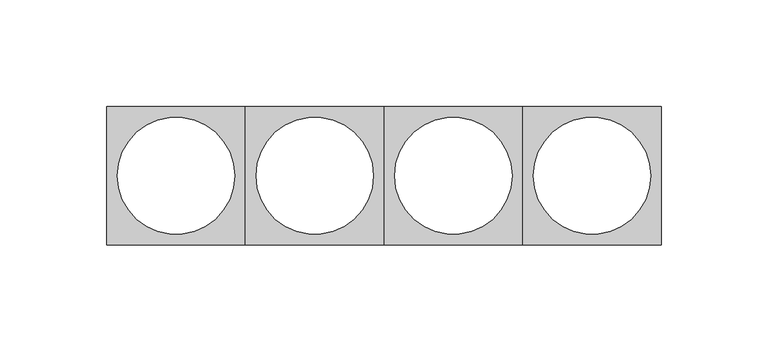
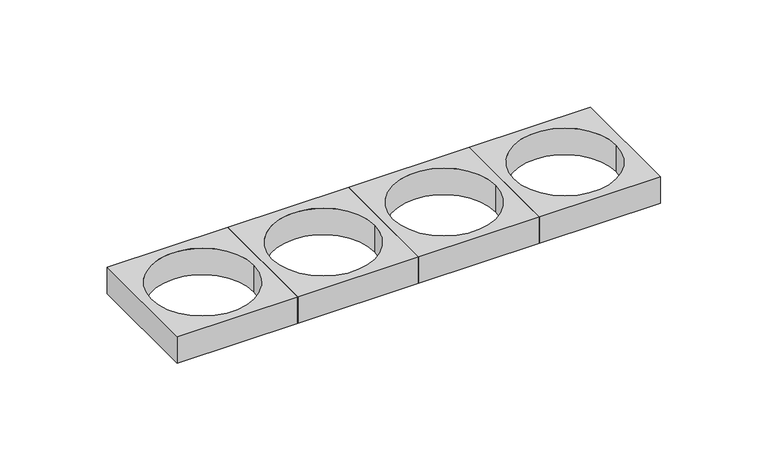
"""IFC4 building model written with IfcOpenShell, lengths in millimetres: duct fitting geometry, Mosaic Суппорт на 4 модуля : 65мм."""

import ifcopenshell
import ifcopenshell.guid

model = None  # the IFC model being written
_history = None  # IfcOwnerHistory: only IFC2X3 demands one
_inside = {}  # id of a spatial element -> (the spatial element, [elements in it])
_under = {}  # id of a project, library or spatial element -> (it, [spatial elements below it])
_declared = {}  # id of a project -> (the project, [libraries it declares])
_typed = {}  # id of a type object -> (the type object, [elements of that type])
_made_of = {}  # id of a material, layer set ... -> (it, [elements and type objects made of it])


def new_model(schema):
    """Start an empty IFC model of exactly this schema.

    Asked for "IFC4X3", IfcOpenShell would pick the latest addendum, in which some entities
    have other attributes; the version numbers below select the first issue.
    IFC2X3 requires an IfcOwnerHistory on every rooted entity: one is made here for all.
    """
    global model, _history
    if schema == "IFC4X3":
        model = ifcopenshell.file(schema_version=(4, 3, 0, 0))
    else:
        model = ifcopenshell.file(schema=schema)
    _inside.clear()
    _under.clear()
    _declared.clear()
    _typed.clear()
    _made_of.clear()
    _history = None
    if model.schema == "IFC2X3":
        org = make("IfcOrganization", Name="unknown")
        user = make(
            "IfcPersonAndOrganization",
            ThePerson=make("IfcPerson", FamilyName="unknown"),
            TheOrganization=org,
        )
        app = make(
            "IfcApplication",
            ApplicationDeveloper=org,
            Version="unknown",
            ApplicationFullName="unknown",
            ApplicationIdentifier="unknown",
        )
        _history = make(
            "IfcOwnerHistory",
            OwningUser=user,
            OwningApplication=app,
            ChangeAction="ADDED",
            CreationDate=0,
        )
    return model


def make(cls, **values):
    """One entity of the class cls with the attributes given. An attribute that is None is left unset."""
    return model.create_entity(
        cls, **{name: value for name, value in values.items() if value is not None}
    )


def rooted(cls, **values):
    """An entity with a GlobalId (a new one), such as an element, a storey or a relation."""
    return make(cls, GlobalId=ifcopenshell.guid.new(), OwnerHistory=_history, **values)


def si_unit(unit_type, name, prefix=None):
    """IfcSIUnit, for example si_unit("LENGTHUNIT", "METRE", prefix="MILLI")."""
    return make("IfcSIUnit", UnitType=unit_type, Prefix=prefix, Name=name)


def assignment(units):
    """IfcUnitAssignment: the units of a project."""
    return None if units is None else make("IfcUnitAssignment", Units=units)


def point(xyz):
    """IfcCartesianPoint."""
    return None if xyz is None else make("IfcCartesianPoint", Coordinates=xyz)


def direction(xyz):
    """IfcDirection."""
    return None if xyz is None else make("IfcDirection", DirectionRatios=xyz)


def frame(location, z_axis=None, x_axis=None):
    """IfcAxis2Placement3D, a coordinate frame: its origin and axes. An axis left out is left unset."""
    return make(
        "IfcAxis2Placement3D",
        Location=point(location),
        Axis=direction(z_axis),
        RefDirection=direction(x_axis),
    )


def frame_2d(location, x_axis=None):
    """IfcAxis2Placement2D, a coordinate frame in the plane: its origin and x axis."""
    return make(
        "IfcAxis2Placement2D", Location=point(location), RefDirection=direction(x_axis)
    )


def origin():
    """The frame at (0, 0, 0) with its axes left unset."""
    return frame((0.0, 0.0, 0.0))


def origin_with_axes():
    """The frame at (0, 0, 0) with the z axis (0, 0, 1) and the x axis (1, 0, 0) written out."""
    return frame((0.0, 0.0, 0.0), z_axis=(0.0, 0.0, 1.0), x_axis=(1.0, 0.0, 0.0))


def origin_2d():
    """The frame at (0, 0) in the plane with its x axis left unset."""
    return frame_2d((0.0, 0.0))


def place(relative_to, where):
    """IfcLocalPlacement: puts the frame where relative to a parent placement (None: the world)."""
    return make(
        "IfcLocalPlacement", PlacementRelTo=relative_to, RelativePlacement=where
    )


def context(
    kind, dimensions, precision=None, world=None, true_north=None, identifier=None
):
    """IfcGeometricRepresentationContext, for example the 3D "Model" context."""
    return make(
        "IfcGeometricRepresentationContext",
        ContextIdentifier=identifier,
        ContextType=kind,
        CoordinateSpaceDimension=dimensions,
        Precision=precision,
        WorldCoordinateSystem=world,
        TrueNorth=true_north,
    )


def project(units=None, contexts=None):
    """IfcProject with its units and contexts."""
    return rooted(
        "IfcProject",
        Name="project",
        RepresentationContexts=contexts,
        UnitsInContext=assignment(units),
    )


def spatial(cls, under=None, at=None, **own):
    """A site, building, storey or space (cls), placed at a placement, below another one or the project."""
    s = rooted(cls, ObjectPlacement=at, **own)
    if under is not None:
        _under.setdefault(under.id(), (under, []))[1].append(s)
    return s


def polyline(points):
    """IfcPolyline through the points."""
    return make("IfcPolyline", Points=[point(p) for p in points])


def circle_curve(where, radius):
    """IfcCircle in the frame where."""
    return make("IfcCircle", Position=where, Radius=radius)


def trimmed(basis, trim1, trim2, sense, master):
    """IfcTrimmedCurve: the piece of a basis curve between two trims."""
    return make(
        "IfcTrimmedCurve",
        BasisCurve=basis,
        Trim1=trim1,
        Trim2=trim2,
        SenseAgreement=sense,
        MasterRepresentation=master,
    )


def segment(curve, same_sense, transition):
    """IfcCompositeCurveSegment."""
    return make(
        "IfcCompositeCurveSegment",
        Transition=transition,
        SameSense=same_sense,
        ParentCurve=curve,
    )


def composite_curve(segments, self_intersect=None):
    """IfcCompositeCurve: segments joined end to end."""
    return make("IfcCompositeCurve", Segments=segments, SelfIntersect=self_intersect)


def outline(outer, holes=None, kind="AREA"):
    """IfcArbitraryClosedProfileDef: a profile drawn as a closed curve; with holes, ...WithVoids."""
    if holes is None:
        return make("IfcArbitraryClosedProfileDef", ProfileType=kind, OuterCurve=outer)
    return make(
        "IfcArbitraryProfileDefWithVoids",
        ProfileType=kind,
        OuterCurve=outer,
        InnerCurves=holes,
    )


def extrude(swept, where, along, depth):
    """IfcExtrudedAreaSolid: the profile swept, set in the frame where, extruded along a direction by depth."""
    return make(
        "IfcExtrudedAreaSolid",
        SweptArea=swept,
        Position=where,
        ExtrudedDirection=direction(along),
        Depth=depth,
    )


def shape(context_of_items, identifier, shape_type, items):
    """IfcShapeRepresentation: the items that make up one representation, for example the "Body"."""
    return make(
        "IfcShapeRepresentation",
        ContextOfItems=context_of_items,
        RepresentationIdentifier=identifier,
        RepresentationType=shape_type,
        Items=items,
    )


def source(mapping_origin, context_of_items, identifier, shape_type, items):
    """IfcRepresentationMap: a shape defined once, which mapped items show again and again."""
    return make(
        "IfcRepresentationMap",
        MappingOrigin=mapping_origin,
        MappedRepresentation=shape(context_of_items, identifier, shape_type, items),
    )


def transform(
    local_origin,
    x_axis=None,
    y_axis=None,
    z_axis=None,
    scale=None,
    scale2=None,
    scale3=None,
    uniform=True,
):
    """IfcCartesianTransformationOperator3D, or its non-uniform kind. x_axis, y_axis, z_axis: its Axis1, 2, 3."""
    if uniform:
        return make(
            "IfcCartesianTransformationOperator3D",
            Axis1=direction(x_axis),
            Axis2=direction(y_axis),
            LocalOrigin=point(local_origin),
            Scale=scale,
            Axis3=direction(z_axis),
        )
    return make(
        "IfcCartesianTransformationOperator3DnonUniform",
        Axis1=direction(x_axis),
        Axis2=direction(y_axis),
        LocalOrigin=point(local_origin),
        Scale=scale,
        Axis3=direction(z_axis),
        Scale2=scale2,
        Scale3=scale3,
    )


def mapped(mapping_source, mapping_target):
    """IfcMappedItem: shows the shape of a source again, moved by a transform."""
    return make(
        "IfcMappedItem", MappingSource=mapping_source, MappingTarget=mapping_target
    )


def made_of(thing, what):
    """Note that an element or type object is made of a material, layer set ...; save() writes the relation."""
    if what is not None:
        _made_of.setdefault(what.id(), (what, []))[1].append(thing)
    return thing


def element(
    cls,
    number,
    at=None,
    inside=None,
    cuts=None,
    type_object=None,
    material=None,
    context=None,
    identifier="Body",
    shape_type=None,
    held_by="IfcProductDefinitionShape",
    body=None,
    shapes=None,
    **own,
):
    """One element of the class cls, such as IfcWall. Its Tag is "e" and its number.

    at: its placement. inside: the storey or other place that contains it. cuts: it is an
    opening in that element (IfcRelVoidsElement). A single representation is given by context,
    identifier, shape_type and body (its items); several are given by shapes. held_by: the class
    of the entity that holds the representations. save() writes the other relations.
    """
    e = rooted(cls, Tag="e%d" % number, ObjectPlacement=at, **own)
    if body is not None:
        shapes = [shape(context, identifier, shape_type, body)]
    if shapes is not None:
        e.Representation = make(held_by, Representations=shapes)
    if inside is not None:
        _inside.setdefault(inside.id(), (inside, []))[1].append(e)
    if cuts is not None:
        rooted(
            "IfcRelVoidsElement", RelatingBuildingElement=cuts, RelatedOpeningElement=e
        )
    if type_object is not None:
        _typed.setdefault(type_object.id(), (type_object, []))[1].append(e)
    return made_of(e, material)


def aggregate(whole, parts):
    """IfcRelAggregates: a whole, such as a stair, and the parts it consists of."""
    return rooted("IfcRelAggregates", RelatingObject=whole, RelatedObjects=parts)


def save(model, path):
    """Write the relations noted so far, then the file.

    IfcRelAggregates (storeys below a building ...), IfcRelContainedInSpatialStructure (elements
    in a storey), IfcRelDefinesByType, IfcRelAssociatesMaterial and IfcRelDeclares: one each for
    every whole, place, type object, material and project.
    """
    for whole, parts in _under.values():
        aggregate(whole, parts)
    for where, things in _inside.values():
        rooted(
            "IfcRelContainedInSpatialStructure",
            RelatedElements=things,
            RelatingStructure=where,
        )
    for kind, things in _typed.values():
        rooted("IfcRelDefinesByType", RelatedObjects=things, RelatingType=kind)
    for what, things in _made_of.values():
        rooted("IfcRelAssociatesMaterial", RelatedObjects=things, RelatingMaterial=what)
    for by, libraries in _declared.values():
        rooted("IfcRelDeclares", RelatingContext=by, RelatedDefinitions=libraries)
    model.write(path)


def duct_fitting_e029a808(model_context):
    return source(origin(), model_context, "Body", "SweptSolid", [
        extrude(outline(polyline([(227.5, 32.5), (227.5, -32.5), (162.5, -32.5), (162.5, 32.5), (227.5, 32.5)]), holes=[composite_curve([segment(trimmed(circle_curve(frame_2d((195.0, 0.0)), 27.5), [point((167.5, 0.0))], [point((222.5, 0.0))], True, "CARTESIAN"), True, "CONTINUOUS"), segment(trimmed(circle_curve(frame_2d((195.0, 0.0)), 27.5), [point((222.5, 0.0))], [point((167.5, 0.0))], True, "CARTESIAN"), True, "CONTINUOUS")], self_intersect=False)]), origin_with_axes(), (0.0, 0.0, 1.0), 15.0),
        extrude(outline(polyline([(162.5, 32.5), (162.5, -32.5), (97.5, -32.5), (97.5, 32.5), (162.5, 32.5)]), holes=[composite_curve([segment(trimmed(circle_curve(frame_2d((130.0, 0.0)), 27.5), [point((102.5, 0.0))], [point((157.5, 0.0))], True, "CARTESIAN"), True, "CONTINUOUS"), segment(trimmed(circle_curve(frame_2d((130.0, 0.0)), 27.5), [point((157.5, 0.0))], [point((102.5, 0.0))], True, "CARTESIAN"), True, "CONTINUOUS")], self_intersect=False)]), origin_with_axes(), (0.0, 0.0, 1.0), 15.0),
        extrude(outline(polyline([(97.5, 32.5), (97.5, -32.5), (32.5, -32.5), (32.5, 32.5), (97.5, 32.5)]), holes=[composite_curve([segment(trimmed(circle_curve(frame_2d((65.0, 0.0)), 27.5), [point((37.5, 0.0))], [point((92.5, 0.0))], True, "CARTESIAN"), True, "CONTINUOUS"), segment(trimmed(circle_curve(frame_2d((65.0, 0.0)), 27.5), [point((92.5, 0.0))], [point((37.5, 0.0))], True, "CARTESIAN"), True, "CONTINUOUS")], self_intersect=False)]), origin_with_axes(), (0.0, 0.0, 1.0), 15.0),
        extrude(outline(polyline([(32.5, 32.5), (32.5, -32.5), (-32.5, -32.5), (-32.5, 32.5), (32.5, 32.5)]), holes=[composite_curve([segment(trimmed(circle_curve(origin_2d(), 27.5), [point((-27.5, 0.0))], [point((27.5, 0.0))], True, "CARTESIAN"), True, "CONTINUOUS"), segment(trimmed(circle_curve(origin_2d(), 27.5), [point((27.5, 0.0))], [point((-27.5, 0.0))], True, "CARTESIAN"), True, "CONTINUOUS")], self_intersect=False)]), origin_with_axes(), (0.0, 0.0, 1.0), 15.0),
    ])


if __name__ == "__main__":
    model = new_model("IFC4")
    model_context = context("Model", 3, world=origin())
    ifc_project = project(units=[si_unit("LENGTHUNIT", "METRE", prefix="MILLI")], contexts=[model_context])
    site = spatial("IfcSite", under=ifc_project)
    building = spatial("IfcBuilding", under=site)
    placement = place(None, origin())
    duct_fitting_shape = duct_fitting_e029a808(model_context)
    element("IfcDuctFitting", 1, ObjectType="Mosaic Суппорт на 4 модуля : 65мм", at=placement, inside=building, context=model_context, shape_type="MappedRepresentation", body=[
        mapped(duct_fitting_shape, transform((0.0, 0.0, 0.0), x_axis=(1.0, 0.0, 0.0), y_axis=(0.0, 1.0, 0.0), z_axis=(0.0, 0.0, 1.0))),
    ])
    save(model, "model.ifc")
